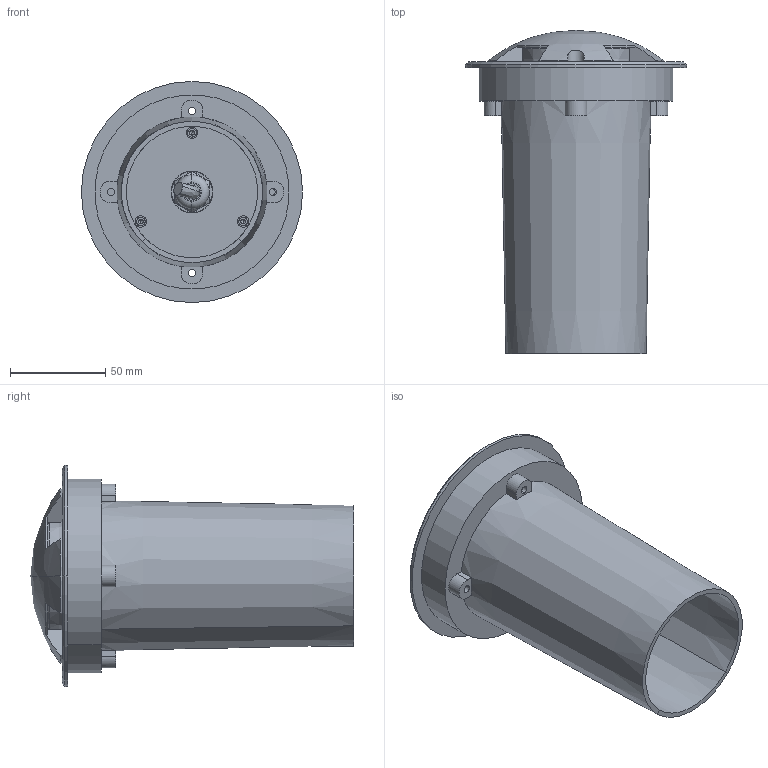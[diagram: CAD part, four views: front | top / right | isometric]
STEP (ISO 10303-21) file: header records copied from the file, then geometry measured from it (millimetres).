
FILE_DESCRIPTION((''),'2;1');
FILE_NAME('2CD-01KONG_ASM','2021-06-30T',('Administrator'),(''),'CREO PARAMETRIC BY PTC INC, 2015200','CREO PARAMETRIC BY PTC INC, 2015200','');
FILE_SCHEMA(('CONFIG_CONTROL_DESIGN'));
Length unit declared in the file: millimetre
Products named in the file (18): 2CD-F_17_2; F-S-T_35_2; PC_36_2; 2CD-JIZA; 2CD-GYB; 2CD-TUOGUANGJING; 2CD-YAPIAN; AL-2AD_O___2; AL-2AD___2; __2_2; __-__7_2; __1_2CD____2; PG9___ASM_2_ASM; 2AD_G_1; 2CD-4K; 2CD-A; 2CD-4KONAG_ASM; 2CD-01KONG_ASM
Assembly tree (17 placements, depth 3):
  2CD-01KONG_ASM
    2CD-F_17_2
    F-S-T_35_2
    PC_36_2
    2CD-JIZA
    2CD-GYB
    2CD-TUOGUANGJING
    2CD-YAPIAN
    AL-2AD_O___2
    AL-2AD___2
    PG9___ASM_2_ASM
      __2_2
      __-__7_2
      __1_2CD____2
    2AD_G_1
    2CD-4KONAG_ASM
      2CD-4K
      2CD-A
Bounding box: 116 x 169.6 x 116 mm (x, y, z)
Volume: 306840.3 mm3; surface area: 216886 mm2
Topology: 15 solids, 15 shells, 1203 faces, 3132 edges, 2023 vertices
Faces by surface type: plane 488, cylinder 319, cone 179, torus 73, extrusion 66, bspline 62, sphere 16
Entity records: 49159 total; most frequent: CARTESIAN_POINT 19401, ORIENTED_EDGE 6226, DIRECTION 6063, EDGE_CURVE 3113, AXIS2_PLACEMENT_3D 2306, VERTEX_POINT 2023, VECTOR 1451, LINE 1385
